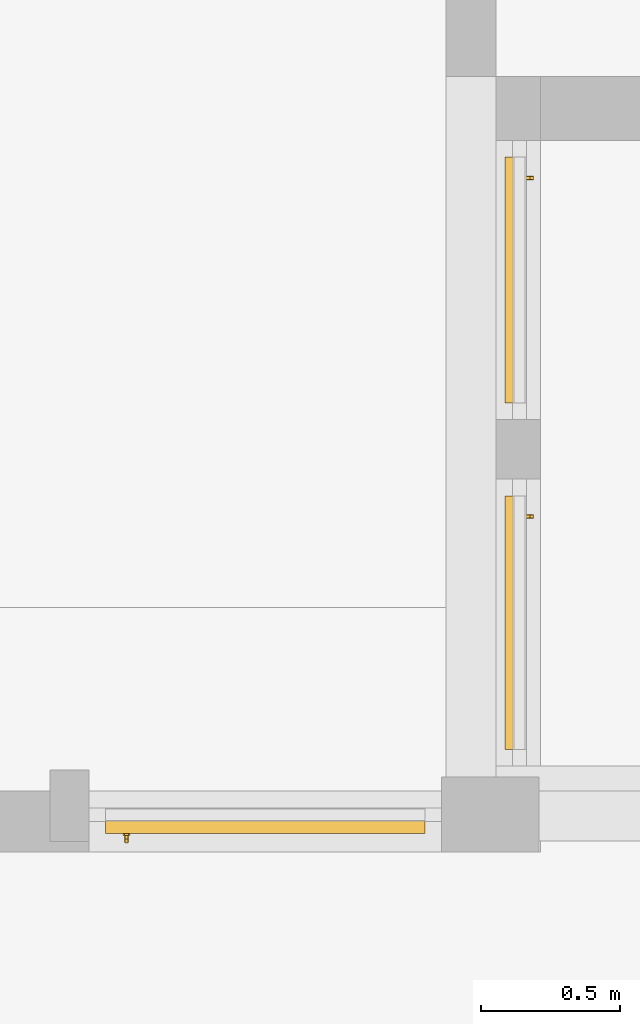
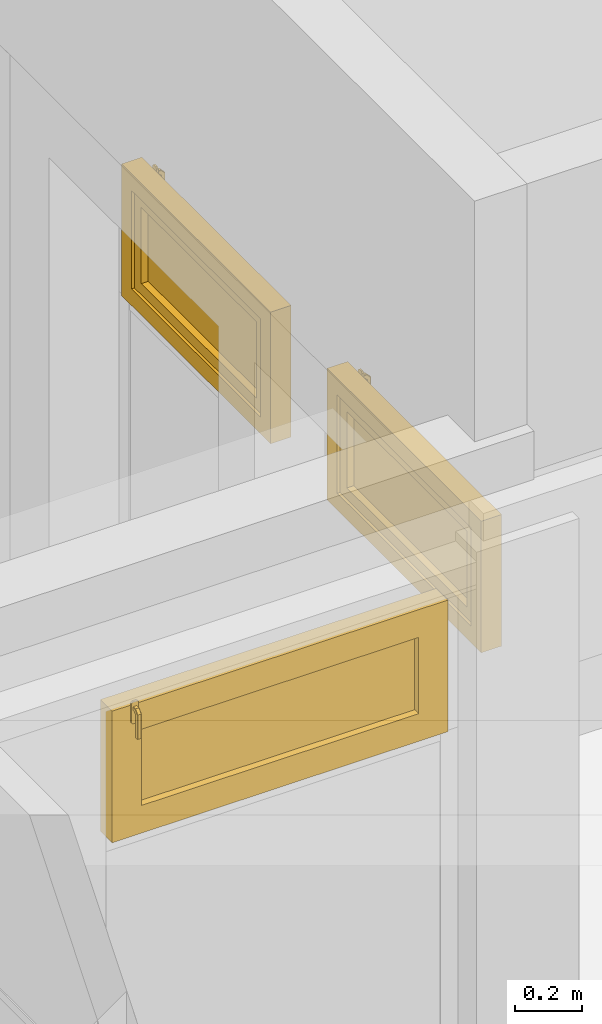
# One storey, part 42 of 49: 3 windows, 3 elements without a shape of their own.
"""IFC4 building model written with IfcOpenShell, lengths in metres."""

from ifc_helpers import new_model, entity, si_unit, converted_unit, derived_unit, direction, frame, origin, place, context, subcontext, project, spatial, polygons, source, transform, mapped, material, material_list, constituent, constituent_set, type_object, type_shapes, element, aggregate, save


model = new_model("IFC4")

# Units and contexts
model_context = context("Model", 3, precision=1e-05, world=origin(), true_north=direction((6.12303176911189e-17, 1.0)))
body_context = subcontext(model_context, "Body", "Model", "MODEL_VIEW")
ifc_project = project(units=[si_unit("LENGTHUNIT", "METRE"), si_unit("AREAUNIT", "SQUARE_METRE"), si_unit("VOLUMEUNIT", "CUBIC_METRE"), converted_unit("PLANEANGLEUNIT", "DEGREE", entity("IfcRatioMeasure", 0.0174532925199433), si_unit("PLANEANGLEUNIT", "RADIAN"), dimensions=[0, 0, 0, 0, 0, 0, 0]), si_unit("MASSUNIT", "GRAM", prefix="KILO"), derived_unit("MASSDENSITYUNIT", [(si_unit("MASSUNIT", "GRAM", prefix="KILO"), 1), (si_unit("LENGTHUNIT", "METRE"), -3)]), derived_unit("MOMENTOFINERTIAUNIT", [(si_unit("LENGTHUNIT", "METRE"), 4)]), si_unit("TIMEUNIT", "SECOND"), si_unit("FREQUENCYUNIT", "HERTZ"), si_unit("THERMODYNAMICTEMPERATUREUNIT", "DEGREE_CELSIUS"), derived_unit("THERMALTRANSMITTANCEUNIT", [(si_unit("MASSUNIT", "GRAM", prefix="KILO"), 1), (si_unit("THERMODYNAMICTEMPERATUREUNIT", "KELVIN"), -1), (si_unit("TIMEUNIT", "SECOND"), -3)]), derived_unit("VOLUMETRICFLOWRATEUNIT", [(si_unit("LENGTHUNIT", "METRE"), 3), (si_unit("TIMEUNIT", "SECOND"), -1)]), si_unit("ELECTRICCURRENTUNIT", "AMPERE"), si_unit("ELECTRICVOLTAGEUNIT", "VOLT"), si_unit("POWERUNIT", "WATT"), si_unit("FORCEUNIT", "NEWTON", prefix="KILO"), si_unit("ILLUMINANCEUNIT", "LUX"), si_unit("LUMINOUSFLUXUNIT", "LUMEN"), si_unit("LUMINOUSINTENSITYUNIT", "CANDELA"), derived_unit("USERDEFINED", [(si_unit("MASSUNIT", "GRAM", prefix="KILO"), -1), (si_unit("LENGTHUNIT", "METRE"), -2), (si_unit("TIMEUNIT", "SECOND"), 3), (si_unit("LUMINOUSFLUXUNIT", "LUMEN"), 1)]), derived_unit("LINEARVELOCITYUNIT", [(si_unit("LENGTHUNIT", "METRE"), 1), (si_unit("TIMEUNIT", "SECOND"), -1)]), si_unit("PRESSUREUNIT", "PASCAL"), derived_unit("USERDEFINED", [(si_unit("LENGTHUNIT", "METRE"), -2), (si_unit("MASSUNIT", "GRAM", prefix="KILO"), 1), (si_unit("TIMEUNIT", "SECOND"), -2)]), derived_unit("LINEARFORCEUNIT", [(si_unit("MASSUNIT", "GRAM", prefix="KILO"), 1), (si_unit("LENGTHUNIT", "METRE"), 1), (si_unit("TIMEUNIT", "SECOND"), -2), (si_unit("LENGTHUNIT", "METRE"), -1)]), derived_unit("PLANARFORCEUNIT", [(si_unit("MASSUNIT", "GRAM", prefix="KILO"), 1), (si_unit("LENGTHUNIT", "METRE"), 1), (si_unit("TIMEUNIT", "SECOND"), -2), (si_unit("LENGTHUNIT", "METRE"), -2)])], contexts=[model_context])

# Site, building, storey
site_placement = place(None, origin())
site = spatial("IfcSite", under=ifc_project, at=site_placement, Name="Default", CompositionType="ELEMENT")
building_placement = place(site_placement, origin())
building = spatial("IfcBuilding", under=site, at=building_placement, Name="HOTEL CONSULAIRE BOULOGNE SUR MER", CompositionType="ELEMENT")
storey_placement = place(building_placement, frame((0.0, 0.0, 6.81974152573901)))
storey = spatial("IfcBuildingStorey", under=building, at=storey_placement, Name="Niveau 2", CompositionType="ELEMENT", Elevation=6.81974152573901)

# Curtain wall, window
curtain_wall_type = type_object("IfcCurtainWallType", Name="Mur-rideau:Simple panneau", PredefinedType="NOTDEFINED")
curtain_wall_1_placement = place(storey_placement, frame((0.0, 0.0, -6.81974152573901)))
curtain_wall_1 = element("IfcCurtainWall", 1, at=curtain_wall_1_placement, inside=storey, type_object=curtain_wall_type, Name="Mur-rideau:Simple panneau", ObjectType="Mur-rideau:Simple panneau", PredefinedType="NOTDEFINED")
ifc_material_1 = material(Name="PVC - Blanc", Category="Plastique")
ifc_constituent_1 = constituent(ifc_material_1, Name="PVC - Blanc", Category="Matériaux")
ifc_material_2 = material(Name="Fenêtre - Vitrage", Category="Verre")
ifc_constituent_2 = constituent(ifc_material_2, Name="Fenêtre - Vitrage", Category="Matériaux")
ifc_constituent_set_1 = constituent_set(constituents=[ifc_constituent_1, ifc_constituent_2], Name="MaterialConstituentSet")
ifc_material_list_1 = material_list([ifc_material_1, ifc_material_1])
window_type_1 = type_object("IfcWindowType", Name="MR 1 Vantail:MR 1 Vantail", PartitioningType="NOTDEFINED", PredefinedType="WINDOW", material=ifc_material_list_1)
shared_shape_1 = source(origin(), body_context, "Body", "Tessellation", [
    polygons([(-0.387234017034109, 0.0492408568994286, 0.472033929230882), (-0.388621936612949, 0.0492408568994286, 0.470646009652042), (-0.388621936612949, 0.0492408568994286, 0.459332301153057), (-0.387255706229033, 0.0492408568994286, 0.457966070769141), (-0.375920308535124, 0.0492408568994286, 0.457966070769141), (-0.374554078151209, 0.0492408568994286, 0.459332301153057), (-0.374554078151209, 0.0492408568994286, 0.470646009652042), (-0.375941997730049, 0.0492408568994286, 0.472033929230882), (-0.387234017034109, 0.0621544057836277, 0.472033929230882), (-0.388621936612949, 0.0615795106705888, 0.470646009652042), (-0.388621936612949, 0.0748868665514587, 0.457338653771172), (-0.388621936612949, 0.0748868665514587, 0.370000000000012), (-0.388621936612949, 0.0635731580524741, 0.370000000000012), (-0.388621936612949, 0.0635731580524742, 0.452652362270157), (-0.388621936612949, 0.0568932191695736, 0.459332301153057), (-0.387255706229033, 0.0563273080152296, 0.457966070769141), (-0.375920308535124, 0.0563273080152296, 0.457966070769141), (-0.374554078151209, 0.0568932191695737, 0.459332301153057), (-0.374554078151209, 0.0635731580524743, 0.452652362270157), (-0.374554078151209, 0.0635731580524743, 0.370000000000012), (-0.374554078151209, 0.0748868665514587, 0.370000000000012), (-0.374554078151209, 0.0748868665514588, 0.457338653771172), (-0.374554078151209, 0.0615795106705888, 0.470646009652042), (-0.375941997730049, 0.0621544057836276, 0.472033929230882), (-0.387234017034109, 0.076274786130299, 0.457913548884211), (-0.387255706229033, 0.0622069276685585, 0.452086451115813), (-0.375920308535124, 0.0622069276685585, 0.452086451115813), (-0.375941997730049, 0.0762747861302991, 0.457913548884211), (-0.387234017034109, 0.076274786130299, 0.370000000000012), (-0.375941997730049, 0.076274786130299, 0.370000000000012), (-0.375920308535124, 0.0622069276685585, 0.370000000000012), (-0.387255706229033, 0.0622069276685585, 0.370000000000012)], [[[5, 6, 7, 8, 1, 2, 3, 4]], [[27, 26, 32, 31]], [[2, 1, 9, 10]], [[2, 10, 11, 12, 13, 14, 15, 3]], [[4, 3, 15, 16]], [[5, 4, 16, 17]], [[32, 13, 12, 29, 30, 21, 20, 31]], [[6, 5, 17, 18]], [[6, 18, 19, 20, 21, 22, 23, 7]], [[8, 7, 23, 24]], [[1, 8, 24, 9]], [[10, 9, 25, 11]], [[16, 15, 14, 26]], [[17, 16, 26, 27]], [[18, 17, 27, 19]], [[24, 23, 22, 28]], [[9, 24, 28, 25]], [[11, 25, 29, 12]], [[26, 14, 13, 32]], [[19, 27, 31, 20]], [[28, 22, 21, 30]], [[25, 28, 30, 29]]], closed=True),
    polygons([(-0.388588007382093, 0.0432408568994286, 0.490000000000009), (-0.393588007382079, 0.0432408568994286, 0.48500000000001), (-0.393588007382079, 0.0432408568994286, 0.414999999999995), (-0.388588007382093, 0.0432408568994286, 0.410000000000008), (-0.374588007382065, 0.0432408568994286, 0.410000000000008), (-0.369588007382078, 0.0432408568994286, 0.414999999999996), (-0.369588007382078, 0.0432408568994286, 0.48500000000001), (-0.374588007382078, 0.0432408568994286, 0.490000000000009), (-0.388588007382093, 0.0492408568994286, 0.490000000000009), (-0.374588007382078, 0.0492408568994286, 0.490000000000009), (-0.369588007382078, 0.0492408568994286, 0.48500000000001), (-0.369588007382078, 0.0492408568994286, 0.414999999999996), (-0.374588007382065, 0.0492408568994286, 0.410000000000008), (-0.388588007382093, 0.0492408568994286, 0.410000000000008), (-0.393588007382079, 0.0492408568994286, 0.414999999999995), (-0.393588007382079, 0.0492408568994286, 0.48500000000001)], [[[1, 2, 3, 4, 5, 6, 7, 8]], [[14, 15, 16, 9, 10, 11, 12, 13]], [[2, 1, 9, 16]], [[3, 2, 16, 15]], [[4, 3, 15, 14]], [[5, 4, 14, 13]], [[6, 5, 13, 12]], [[7, 6, 12, 11]], [[8, 7, 11, 10]], [[1, 8, 10, 9]]], closed=True),
    polygons([(0.356588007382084, 0.0192408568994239, 0.376), (0.356588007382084, 0.0192408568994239, 0.0999999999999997), (-0.356588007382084, 0.0192408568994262, 0.0999999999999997), (-0.356588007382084, 0.0192408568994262, 0.376), (0.356588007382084, 0.0072408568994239, 0.376), (-0.356588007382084, 0.00724085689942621, 0.376), (-0.356588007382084, 0.00724085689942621, 0.0999999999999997), (0.356588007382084, 0.0072408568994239, 0.0999999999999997)], [[[3, 4, 1, 2]], [[8, 5, 6, 7]], [[5, 1, 4, 6]], [[6, 4, 3, 7]], [[7, 3, 2, 8]], [[8, 2, 1, 5]]], closed=True),
    polygons([(-0.406588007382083, -0.0167591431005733, 0.426), (0.406588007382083, -0.0167591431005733, 0.426), (0.406588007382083, 0.043240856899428, 0.426), (-0.406588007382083, 0.043240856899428, 0.426), (-0.356588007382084, 0.043240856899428, 0.376), (0.356588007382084, 0.043240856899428, 0.376), (0.356588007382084, -0.0167591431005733, 0.376), (-0.356588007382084, -0.0167591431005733, 0.376), (0.406588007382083, -0.0167591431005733, 0.0500000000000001), (0.406588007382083, 0.043240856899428, 0.0500000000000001), (0.356588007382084, 0.043240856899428, 0.0999999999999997), (0.356588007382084, -0.0167591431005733, 0.0999999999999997), (-0.406588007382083, -0.0167591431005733, 0.0500000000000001), (-0.406588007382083, 0.043240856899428, 0.0500000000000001), (-0.356588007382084, 0.043240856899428, 0.0999999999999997), (-0.356588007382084, -0.0167591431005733, 0.0999999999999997)], [[[3, 4, 1, 2]], [[16, 12, 11, 15]], [[7, 8, 5, 6]], [[14, 10, 9, 13]], [[9, 10, 3, 2]], [[8, 16, 15, 5]], [[12, 7, 6, 11]], [[1, 4, 14, 13]], [[10, 14, 4, 3], [15, 11, 6, 5]], [[13, 9, 2, 1], [12, 16, 8, 7]]], closed=True),
    polygons([(-0.396588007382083, -0.016759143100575, 0.416), (0.396588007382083, -0.016759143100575, 0.416), (0.396588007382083, -0.0267591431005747, 0.416), (-0.396588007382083, -0.0267591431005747, 0.416), (-0.406588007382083, 0.0432408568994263, 0.426), (0.406588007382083, 0.0432408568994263, 0.426), (0.406588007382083, -0.016759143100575, 0.426), (-0.406588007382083, -0.016759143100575, 0.426), (-0.456588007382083, -0.0267591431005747, 0.476), (0.456588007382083, -0.0267591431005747, 0.476), (0.456588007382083, 0.0432408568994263, 0.476), (-0.456588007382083, 0.0432408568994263, 0.476), (0.396588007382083, -0.016759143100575, 0.0600000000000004), (0.396588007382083, -0.0267591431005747, 0.0600000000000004), (0.406588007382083, 0.0432408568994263, 0.0500000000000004), (0.406588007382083, -0.016759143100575, 0.0500000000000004), (0.456588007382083, -0.0267591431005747, 4.06075173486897e-16), (0.456588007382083, 0.0432408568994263, 4.06075173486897e-16), (-0.396588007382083, -0.016759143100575, 0.0600000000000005), (-0.396588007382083, -0.0267591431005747, 0.0600000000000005), (-0.406588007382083, 0.0432408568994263, 0.0500000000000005), (-0.406588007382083, -0.016759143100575, 0.0500000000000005), (-0.456588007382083, -0.0267591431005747, 4.06075173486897e-16), (-0.456588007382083, 0.0432408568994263, 4.06075173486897e-16)], [[[3, 4, 1, 2]], [[7, 8, 5, 6]], [[23, 24, 18, 17]], [[10, 11, 12, 9]], [[20, 14, 13, 19]], [[22, 16, 15, 21]], [[13, 14, 3, 2]], [[15, 16, 7, 6]], [[12, 24, 23, 9]], [[18, 11, 10, 17]], [[1, 4, 20, 19]], [[5, 8, 22, 21]], [[23, 17, 10, 9], [14, 20, 4, 3]], [[16, 22, 8, 7], [19, 13, 2, 1]], [[18, 24, 12, 11], [21, 15, 6, 5]]], closed=True),
])
type_shapes(window_type_1, [shared_shape_1])
window_1_placement = place(curtain_wall_1_placement, frame((7.3689802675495, -13.9364989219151, 9.00847563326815), z_axis=(0.0, 0.0, 1.0), x_axis=(0.0, -1.0, 0.0)))
window_1 = element("IfcWindow", 2, at=window_1_placement, type_object=window_type_1, material=ifc_constituent_set_1, Name="MR 1 Vantail:MR 1 Vantail", ObjectType="MR 1 Vantail:MR 1 Vantail", OverallHeight=0.490000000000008, OverallWidth=0.913176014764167, PartitioningType="NOTDEFINED", PredefinedType="WINDOW", context=body_context, shape_type="MappedRepresentation", body=[
    mapped(shared_shape_1, transform((0.0, 0.0, 0.0), scale=1.0)),
])
aggregate(curtain_wall_1, [window_1])

curtain_wall_2_placement = place(storey_placement, frame((0.0, 0.0, -6.81974152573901)))
curtain_wall_2 = element("IfcCurtainWall", 3, at=curtain_wall_2_placement, inside=storey, type_object=curtain_wall_type, Name="Mur-rideau:Simple panneau", ObjectType="Mur-rideau:Simple panneau", PredefinedType="NOTDEFINED")
ifc_constituent_3 = constituent(ifc_material_1, Name="PVC - Blanc", Category="Matériaux")
ifc_constituent_4 = constituent(ifc_material_2, Name="Fenêtre - Vitrage", Category="Matériaux")
ifc_constituent_set_2 = constituent_set(constituents=[ifc_constituent_3, ifc_constituent_4], Name="MaterialConstituentSet")
ifc_material_list_2 = material_list([ifc_material_1, ifc_material_1])
window_type_2 = type_object("IfcWindowType", Name="MR 1 Vantail:MR 1 Vantail", PartitioningType="NOTDEFINED", PredefinedType="WINDOW", material=ifc_material_list_2)
shared_shape_2 = source(origin(), body_context, "Body", "Tessellation", [
    polygons([(-0.373018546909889, 0.0492408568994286, 0.472033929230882), (-0.374406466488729, 0.0492408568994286, 0.470646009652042), (-0.374406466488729, 0.0492408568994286, 0.459332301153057), (-0.373040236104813, 0.0492408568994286, 0.457966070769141), (-0.361704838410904, 0.0492408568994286, 0.457966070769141), (-0.360338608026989, 0.0492408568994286, 0.459332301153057), (-0.360338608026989, 0.0492408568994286, 0.470646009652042), (-0.361726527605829, 0.0492408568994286, 0.472033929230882), (-0.373018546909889, 0.0621544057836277, 0.472033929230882), (-0.374406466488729, 0.0615795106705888, 0.470646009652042), (-0.374406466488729, 0.0748868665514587, 0.457338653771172), (-0.374406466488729, 0.0748868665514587, 0.370000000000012), (-0.374406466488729, 0.0635731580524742, 0.370000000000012), (-0.374406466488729, 0.0635731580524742, 0.452652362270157), (-0.374406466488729, 0.0568932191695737, 0.459332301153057), (-0.373040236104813, 0.0563273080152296, 0.457966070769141), (-0.361704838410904, 0.0563273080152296, 0.457966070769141), (-0.360338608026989, 0.0568932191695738, 0.459332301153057), (-0.360338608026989, 0.0635731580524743, 0.452652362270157), (-0.360338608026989, 0.0635731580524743, 0.370000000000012), (-0.360338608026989, 0.0748868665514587, 0.370000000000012), (-0.360338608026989, 0.0748868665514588, 0.457338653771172), (-0.360338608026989, 0.0615795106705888, 0.470646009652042), (-0.361726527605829, 0.0621544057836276, 0.472033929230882), (-0.373018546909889, 0.0762747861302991, 0.457913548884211), (-0.373040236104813, 0.0622069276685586, 0.452086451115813), (-0.361704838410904, 0.0622069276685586, 0.452086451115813), (-0.361726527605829, 0.0762747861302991, 0.457913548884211), (-0.373018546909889, 0.076274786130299, 0.370000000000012), (-0.361726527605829, 0.076274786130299, 0.370000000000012), (-0.361704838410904, 0.0622069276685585, 0.370000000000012), (-0.373040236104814, 0.0622069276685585, 0.370000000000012)], [[[5, 6, 7, 8, 1, 2, 3, 4]], [[27, 26, 32, 31]], [[2, 1, 9, 10]], [[2, 10, 11, 12, 13, 14, 15, 3]], [[4, 3, 15, 16]], [[5, 4, 16, 17]], [[32, 13, 12, 29, 30, 21, 20, 31]], [[6, 5, 17, 18]], [[6, 18, 19, 20, 21, 22, 23, 7]], [[8, 7, 23, 24]], [[1, 8, 24, 9]], [[10, 9, 25, 11]], [[16, 15, 14, 26]], [[17, 16, 26, 27]], [[18, 17, 27, 19]], [[24, 23, 22, 28]], [[9, 24, 28, 25]], [[11, 25, 29, 12]], [[26, 14, 13, 32]], [[19, 27, 31, 20]], [[28, 22, 21, 30]], [[25, 28, 30, 29]]], closed=True),
    polygons([(-0.374372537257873, 0.0432408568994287, 0.490000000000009), (-0.379372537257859, 0.0432408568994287, 0.48500000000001), (-0.379372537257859, 0.0432408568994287, 0.414999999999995), (-0.374372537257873, 0.0432408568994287, 0.410000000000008), (-0.360372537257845, 0.0432408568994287, 0.410000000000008), (-0.355372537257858, 0.0432408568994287, 0.414999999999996), (-0.355372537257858, 0.0432408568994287, 0.48500000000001), (-0.360372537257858, 0.0432408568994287, 0.490000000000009), (-0.374372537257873, 0.0492408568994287, 0.490000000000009), (-0.360372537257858, 0.0492408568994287, 0.490000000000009), (-0.355372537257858, 0.0492408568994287, 0.48500000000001), (-0.355372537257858, 0.0492408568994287, 0.414999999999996), (-0.360372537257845, 0.0492408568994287, 0.410000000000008), (-0.374372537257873, 0.0492408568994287, 0.410000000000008), (-0.379372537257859, 0.0492408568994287, 0.414999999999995), (-0.379372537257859, 0.0492408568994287, 0.48500000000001)], [[[1, 2, 3, 4, 5, 6, 7, 8]], [[14, 15, 16, 9, 10, 11, 12, 13]], [[2, 1, 9, 16]], [[3, 2, 16, 15]], [[4, 3, 15, 14]], [[5, 4, 14, 13]], [[6, 5, 13, 12]], [[7, 6, 12, 11]], [[8, 7, 11, 10]], [[1, 8, 10, 9]]], closed=True),
    polygons([(0.342372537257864, 0.0192408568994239, 0.376), (0.342372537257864, 0.0192408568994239, 0.0999999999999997), (-0.342372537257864, 0.0192408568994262, 0.0999999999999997), (-0.342372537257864, 0.0192408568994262, 0.376), (0.342372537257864, 0.00724085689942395, 0.376), (-0.342372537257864, 0.00724085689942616, 0.376), (-0.342372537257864, 0.00724085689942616, 0.0999999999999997), (0.342372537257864, 0.00724085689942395, 0.0999999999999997)], [[[3, 4, 1, 2]], [[8, 5, 6, 7]], [[5, 1, 4, 6]], [[6, 4, 3, 7]], [[7, 3, 2, 8]], [[8, 2, 1, 5]]], closed=True),
    polygons([(-0.392372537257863, -0.0167591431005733, 0.426), (0.392372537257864, -0.0167591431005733, 0.426), (0.392372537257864, 0.043240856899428, 0.426), (-0.392372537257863, 0.043240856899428, 0.426), (-0.342372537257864, 0.043240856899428, 0.376), (0.342372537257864, 0.043240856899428, 0.376), (0.342372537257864, -0.0167591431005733, 0.376), (-0.342372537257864, -0.0167591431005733, 0.376), (0.392372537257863, -0.0167591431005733, 0.0500000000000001), (0.392372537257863, 0.043240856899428, 0.0500000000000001), (0.342372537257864, 0.043240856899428, 0.0999999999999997), (0.342372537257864, -0.0167591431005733, 0.0999999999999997), (-0.392372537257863, -0.0167591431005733, 0.0500000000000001), (-0.392372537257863, 0.043240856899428, 0.0500000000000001), (-0.342372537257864, 0.043240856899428, 0.0999999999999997), (-0.342372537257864, -0.0167591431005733, 0.0999999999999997)], [[[3, 4, 1, 2]], [[15, 16, 12, 11]], [[6, 7, 8, 5]], [[14, 10, 9, 13]], [[9, 10, 3, 2]], [[8, 16, 15, 5]], [[12, 7, 6, 11]], [[1, 4, 14, 13]], [[10, 14, 4, 3], [15, 11, 6, 5]], [[13, 9, 2, 1], [12, 16, 8, 7]]], closed=True),
    polygons([(-0.382372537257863, -0.016759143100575, 0.416), (0.382372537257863, -0.016759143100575, 0.416), (0.382372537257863, -0.0267591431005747, 0.416), (-0.382372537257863, -0.0267591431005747, 0.416), (-0.392372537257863, 0.0432408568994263, 0.426), (0.392372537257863, 0.0432408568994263, 0.426), (0.392372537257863, -0.016759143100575, 0.426), (-0.392372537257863, -0.016759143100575, 0.426), (-0.442372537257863, -0.0267591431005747, 0.476), (0.442372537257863, -0.0267591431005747, 0.476), (0.442372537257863, 0.0432408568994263, 0.476), (-0.442372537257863, 0.0432408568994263, 0.476), (0.382372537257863, -0.016759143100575, 0.0600000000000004), (0.382372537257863, -0.0267591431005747, 0.0600000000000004), (0.392372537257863, 0.0432408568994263, 0.0500000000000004), (0.392372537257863, -0.016759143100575, 0.0500000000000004), (0.442372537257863, -0.0267591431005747, 4.06075173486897e-16), (0.442372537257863, 0.0432408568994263, 4.06075173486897e-16), (-0.382372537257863, -0.016759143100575, 0.0600000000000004), (-0.382372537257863, -0.0267591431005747, 0.0600000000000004), (-0.392372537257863, 0.0432408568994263, 0.0500000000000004), (-0.392372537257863, -0.016759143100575, 0.0500000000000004), (-0.442372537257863, -0.0267591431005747, 4.06075173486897e-16), (-0.442372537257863, 0.0432408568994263, 4.06075173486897e-16)], [[[3, 4, 1, 2]], [[7, 8, 5, 6]], [[24, 18, 17, 23]], [[11, 12, 9, 10]], [[20, 14, 13, 19]], [[22, 16, 15, 21]], [[13, 14, 3, 2]], [[15, 16, 7, 6]], [[12, 24, 23, 9]], [[18, 11, 10, 17]], [[1, 4, 20, 19]], [[5, 8, 22, 21]], [[23, 17, 10, 9], [14, 20, 4, 3]], [[16, 22, 8, 7], [19, 13, 2, 1]], [[18, 24, 12, 11], [21, 15, 6, 5]]], closed=True),
])
type_shapes(window_type_2, [shared_shape_2])
window_2_placement = place(curtain_wall_2_placement, frame((7.3689802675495, -12.703163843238, 9.00847563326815), z_axis=(0.0, 0.0, 1.0), x_axis=(0.0, -1.0, 0.0)))
window_2 = element("IfcWindow", 4, at=window_2_placement, type_object=window_type_2, material=ifc_constituent_set_2, Name="MR 1 Vantail:MR 1 Vantail", ObjectType="MR 1 Vantail:MR 1 Vantail", OverallHeight=0.490000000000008, OverallWidth=0.884745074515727, PartitioningType="NOTDEFINED", PredefinedType="WINDOW", context=body_context, shape_type="MappedRepresentation", body=[
    mapped(shared_shape_2, transform((0.0, 0.0, 0.0), scale=1.0)),
])
aggregate(curtain_wall_2, [window_2])

curtain_wall_3_placement = place(storey_placement, frame((0.0, 0.0, -6.81974152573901)))
curtain_wall_3 = element("IfcCurtainWall", 5, at=curtain_wall_3_placement, inside=storey, type_object=curtain_wall_type, Name="Mur-rideau:Simple panneau", ObjectType="Mur-rideau:Simple panneau", PredefinedType="NOTDEFINED")
ifc_constituent_5 = constituent(ifc_material_1, Name="PVC - Blanc", Category="Matériaux")
ifc_constituent_6 = constituent(ifc_material_2, Name="Fenêtre - Vitrage", Category="Matériaux")
ifc_constituent_set_3 = constituent_set(constituents=[ifc_constituent_5, ifc_constituent_6], Name="MaterialConstituentSet")
ifc_material_list_3 = material_list([ifc_material_1, ifc_material_1])
window_type_3 = type_object("IfcWindowType", Name="MR 1 Vantail:MR 1 Vantail", PartitioningType="NOTDEFINED", PredefinedType="WINDOW", material=ifc_material_list_3)
shared_shape_3 = source(origin(), body_context, "Body", "Tessellation", [
    polygons([(-0.505274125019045, -0.0492408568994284, 0.472033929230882), (-0.493982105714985, -0.0492408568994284, 0.472033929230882), (-0.492594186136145, -0.0492408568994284, 0.470646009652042), (-0.492594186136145, -0.0492408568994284, 0.459332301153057), (-0.493960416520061, -0.0492408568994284, 0.457966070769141), (-0.50529581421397, -0.0492408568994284, 0.457966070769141), (-0.506662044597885, -0.0492408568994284, 0.459332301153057), (-0.506662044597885, -0.0492408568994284, 0.470646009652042), (-0.506662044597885, -0.0615795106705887, 0.470646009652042), (-0.505274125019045, -0.0621544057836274, 0.472033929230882), (-0.506662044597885, -0.0568932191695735, 0.459332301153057), (-0.506662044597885, -0.0635731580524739, 0.452652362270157), (-0.506662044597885, -0.0635731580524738, 0.370000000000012), (-0.506662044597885, -0.0748868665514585, 0.370000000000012), (-0.506662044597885, -0.0748868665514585, 0.457338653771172), (-0.50529581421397, -0.0563273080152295, 0.457966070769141), (-0.493960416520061, -0.0563273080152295, 0.457966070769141), (-0.492594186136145, -0.0568932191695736, 0.459332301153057), (-0.492594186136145, -0.0615795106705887, 0.470646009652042), (-0.492594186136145, -0.0748868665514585, 0.457338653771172), (-0.492594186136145, -0.0748868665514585, 0.370000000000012), (-0.492594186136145, -0.0635731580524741, 0.370000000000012), (-0.492594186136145, -0.0635731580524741, 0.452652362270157), (-0.493982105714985, -0.0621544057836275, 0.472033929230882), (-0.505274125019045, -0.0762747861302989, 0.457913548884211), (-0.50529581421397, -0.0622069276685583, 0.452086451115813), (-0.493960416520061, -0.0622069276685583, 0.452086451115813), (-0.493982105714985, -0.0762747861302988, 0.457913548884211), (-0.505274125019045, -0.0762747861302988, 0.370000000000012), (-0.50529581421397, -0.0622069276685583, 0.370000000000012), (-0.493960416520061, -0.0622069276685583, 0.370000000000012), (-0.493982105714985, -0.0762747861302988, 0.370000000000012)], [[[6, 7, 8, 1, 2, 3, 4, 5]], [[30, 26, 27, 31]], [[9, 10, 1, 8]], [[11, 12, 13, 14, 15, 9, 8, 7]], [[16, 11, 7, 6]], [[16, 6, 5, 17]], [[31, 22, 21, 32, 29, 14, 13, 30]], [[17, 5, 4, 18]], [[3, 19, 20, 21, 22, 23, 18, 4]], [[19, 3, 2, 24]], [[24, 2, 1, 10]], [[15, 25, 10, 9]], [[26, 12, 11, 16]], [[27, 26, 16, 17]], [[27, 17, 18, 23]], [[20, 19, 24, 28]], [[28, 24, 10, 25]], [[29, 25, 15, 14]], [[13, 12, 26, 30]], [[22, 31, 27, 23]], [[32, 21, 20, 28]], [[32, 28, 25, 29]]], closed=True),
    polygons([(-0.506628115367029, -0.0432408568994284, 0.490000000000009), (-0.492628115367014, -0.0432408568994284, 0.490000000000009), (-0.487628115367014, -0.0432408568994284, 0.48500000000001), (-0.487628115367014, -0.0432408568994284, 0.414999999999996), (-0.492628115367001, -0.0432408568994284, 0.410000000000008), (-0.506628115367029, -0.0432408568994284, 0.410000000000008), (-0.511628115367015, -0.0432408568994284, 0.414999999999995), (-0.511628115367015, -0.0432408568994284, 0.48500000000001), (-0.506628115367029, -0.0492408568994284, 0.490000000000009), (-0.511628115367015, -0.0492408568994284, 0.48500000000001), (-0.511628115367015, -0.0492408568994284, 0.414999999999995), (-0.506628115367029, -0.0492408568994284, 0.410000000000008), (-0.492628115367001, -0.0492408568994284, 0.410000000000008), (-0.487628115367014, -0.0492408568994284, 0.414999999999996), (-0.487628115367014, -0.0492408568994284, 0.48500000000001), (-0.492628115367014, -0.0492408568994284, 0.490000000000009)], [[[2, 3, 4, 5, 6, 7, 8, 1]], [[13, 14, 15, 16, 9, 10, 11, 12]], [[9, 1, 8, 10]], [[10, 8, 7, 11]], [[11, 7, 6, 12]], [[12, 6, 5, 13]], [[13, 5, 4, 14]], [[15, 14, 4, 3]], [[15, 3, 2, 16]], [[16, 2, 1, 9]]], closed=True),
    polygons([(0.47462811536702, -0.0192408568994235, 0.376), (-0.47462811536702, -0.0192408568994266, 0.376), (-0.47462811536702, -0.0192408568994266, 0.0999999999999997), (0.47462811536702, -0.0192408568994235, 0.0999999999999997), (0.47462811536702, -0.00724085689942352, 0.376), (0.47462811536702, -0.00724085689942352, 0.0999999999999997), (-0.47462811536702, -0.00724085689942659, 0.0999999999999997), (-0.47462811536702, -0.00724085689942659, 0.376)], [[[4, 1, 2, 3]], [[7, 8, 5, 6]], [[2, 1, 5, 8]], [[3, 2, 8, 7]], [[4, 3, 7, 6]], [[1, 4, 6, 5]]], closed=True),
    polygons([(-0.52462811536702, 0.0167591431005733, 0.426), (-0.52462811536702, -0.043240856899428, 0.426), (0.52462811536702, -0.043240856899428, 0.426), (0.52462811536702, 0.0167591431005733, 0.426), (-0.47462811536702, -0.043240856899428, 0.376), (-0.47462811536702, 0.0167591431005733, 0.376), (0.47462811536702, 0.0167591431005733, 0.376), (0.47462811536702, -0.043240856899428, 0.376), (0.52462811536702, -0.043240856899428, 0.0500000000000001), (0.52462811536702, 0.0167591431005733, 0.0500000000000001), (0.47462811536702, 0.0167591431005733, 0.0999999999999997), (0.47462811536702, -0.043240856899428, 0.0999999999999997), (-0.52462811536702, -0.043240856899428, 0.0500000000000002), (-0.52462811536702, 0.0167591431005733, 0.0500000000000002), (-0.47462811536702, 0.0167591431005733, 0.0999999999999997), (-0.47462811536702, -0.043240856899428, 0.0999999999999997)], [[[1, 2, 3, 4]], [[12, 11, 15, 16]], [[5, 6, 7, 8]], [[10, 9, 13, 14]], [[4, 3, 9, 10]], [[16, 15, 6, 5]], [[8, 7, 11, 12]], [[14, 13, 2, 1]], [[9, 3, 2, 13], [16, 5, 8, 12]], [[14, 1, 4, 10], [11, 7, 6, 15]]], closed=True),
    polygons([(-0.514628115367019, 0.016759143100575, 0.416), (-0.514628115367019, 0.0267591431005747, 0.416), (0.514628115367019, 0.0267591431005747, 0.416), (0.514628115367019, 0.016759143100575, 0.416), (-0.524628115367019, -0.0432408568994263, 0.426), (-0.524628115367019, 0.016759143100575, 0.426), (0.524628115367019, 0.016759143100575, 0.426), (0.524628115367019, -0.0432408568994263, 0.426), (-0.57462811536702, 0.0267591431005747, 0.476), (-0.57462811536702, -0.0432408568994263, 0.476), (0.57462811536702, -0.0432408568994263, 0.476), (0.57462811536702, 0.0267591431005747, 0.476), (0.514628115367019, 0.0267591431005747, 0.0600000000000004), (0.514628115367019, 0.016759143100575, 0.0600000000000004), (0.524628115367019, 0.016759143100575, 0.0500000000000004), (0.524628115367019, -0.0432408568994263, 0.0500000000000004), (0.57462811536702, -0.0432408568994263, 4.06075173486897e-16), (0.57462811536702, 0.0267591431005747, 4.06075173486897e-16), (-0.514628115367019, 0.0267591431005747, 0.0600000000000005), (-0.514628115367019, 0.016759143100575, 0.0600000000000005), (-0.524628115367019, 0.016759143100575, 0.0500000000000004), (-0.524628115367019, -0.0432408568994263, 0.0500000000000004), (-0.57462811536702, -0.0432408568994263, 4.06075173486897e-16), (-0.57462811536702, 0.0267591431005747, 4.06075173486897e-16)], [[[1, 2, 3, 4]], [[5, 6, 7, 8]], [[18, 17, 23, 24]], [[9, 10, 11, 12]], [[14, 13, 19, 20]], [[16, 15, 21, 22]], [[4, 3, 13, 14]], [[8, 7, 15, 16]], [[24, 23, 10, 9]], [[12, 11, 17, 18]], [[20, 19, 2, 1]], [[22, 21, 6, 5]], [[24, 9, 12, 18], [13, 3, 2, 19]], [[15, 7, 6, 21], [20, 1, 4, 14]], [[17, 11, 10, 23], [22, 5, 8, 16]]], closed=True),
])
type_shapes(window_type_3, [shared_shape_3])
window_3_placement = place(curtain_wall_3_placement, frame((6.47883965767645, -14.6529109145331, 9.00847563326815)))
window_3 = element("IfcWindow", 6, at=window_3_placement, type_object=window_type_3, material=ifc_constituent_set_3, Name="MR 1 Vantail:MR 1 Vantail", ObjectType="MR 1 Vantail:MR 1 Vantail", OverallHeight=0.490000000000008, OverallWidth=1.14925623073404, PartitioningType="NOTDEFINED", PredefinedType="WINDOW", context=body_context, shape_type="MappedRepresentation", body=[
    mapped(shared_shape_3, transform((0.0, 0.0, 0.0), scale=1.0)),
])
aggregate(curtain_wall_3, [window_3])

save(model, "model.ifc")
